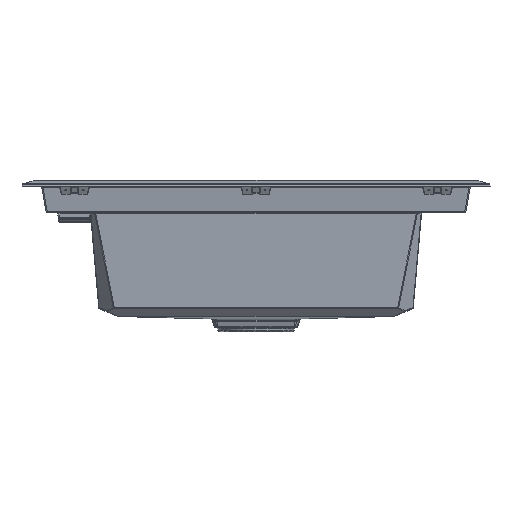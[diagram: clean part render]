
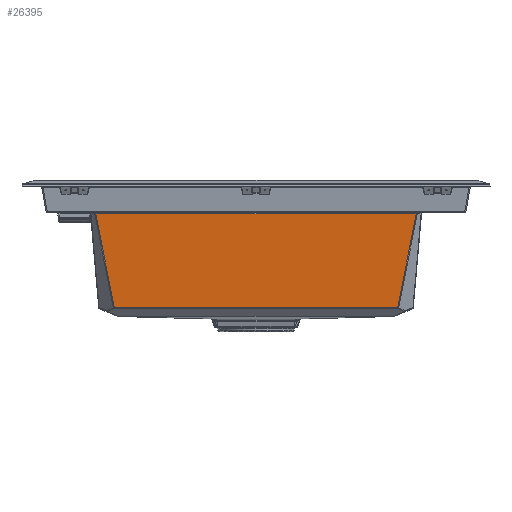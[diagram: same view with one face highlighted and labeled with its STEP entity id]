
A CAD part, top view. The second image highlights one B-rep face of the part: STEP entity #26395.
In plain terms, the highlighted planar face has unit normal (0, -0.087, 0.996).
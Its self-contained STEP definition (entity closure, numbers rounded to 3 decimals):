
#1320 = ORIENTED_EDGE ( 'NONE', *, *, #27175, .T. ) ;
#1837 = DIRECTION ( 'NONE',  ( -0.193, 0.977, 0.086 ) ) ;
#4281 = VERTEX_POINT ( 'NONE', #32304 ) ;
#4355 = VECTOR ( 'NONE', #5386, 1000. ) ;
#5386 = DIRECTION ( 'NONE',  ( -1., 0., 0. ) ) ;
#8283 = DIRECTION ( 'NONE',  ( 0., 0.996, 0.087 ) ) ;
#8424 = CARTESIAN_POINT ( 'NONE',  ( 500000., -36.697, -48.508 ) ) ;
#9517 = CARTESIAN_POINT ( 'NONE',  ( 151.668, -200.236, -62.815 ) ) ;
#10784 = LINE ( 'NONE', #13693, #26779 ) ;
#11290 = CARTESIAN_POINT ( 'NONE',  ( 500000., -45.826, -49.306 ) ) ;
#11443 = VECTOR ( 'NONE', #1837, 1000. ) ;
#11457 = CARTESIAN_POINT ( 'NONE',  ( 500000., -200.236, -62.815 ) ) ;
#11672 = CARTESIAN_POINT ( 'NONE',  ( 18823.399, -94543.887, -8316.815 ) ) ;
#13693 = CARTESIAN_POINT ( 'NONE',  ( 648.891, -45.826, -49.306 ) ) ;
#14011 = AXIS2_PLACEMENT_3D ( 'NONE', #8424, #40329, #8283 ) ;
#18323 = VERTEX_POINT ( 'NONE', #9517 ) ;
#20039 = ORIENTED_EDGE ( 'NONE', *, *, #24327, .F. ) ;
#20410 = ORIENTED_EDGE ( 'NONE', *, *, #35877, .F. ) ;
#21624 = DIRECTION ( 'NONE',  ( -1., 0., 0. ) ) ;
#21941 = EDGE_CURVE ( 'NONE', #18323, #4281, #37959, .T. ) ;
#23025 = EDGE_LOOP ( 'NONE', ( #20039, #1320, #31931, #20410 ) ) ;
#24327 = EDGE_CURVE ( 'NONE', #28544, #36987, #10784, .T. ) ;
#24383 = PLANE ( 'NONE',  #14011 ) ;
#25745 = CARTESIAN_POINT ( 'NONE',  ( 648.891, -45.826, -49.306 ) ) ;
#25864 = LINE ( 'NONE', #11290, #38384 ) ;
#26395 = ADVANCED_FACE ( 'NONE', ( #38198 ), #24383, .F. ) ;
#26779 = VECTOR ( 'NONE', #35548, 1000. ) ;
#27175 = EDGE_CURVE ( 'NONE', #28544, #4281, #25864, .T. ) ;
#28544 = VERTEX_POINT ( 'NONE', #25745 ) ;
#31931 = ORIENTED_EDGE ( 'NONE', *, *, #21941, .F. ) ;
#32304 = CARTESIAN_POINT ( 'NONE',  ( 121.109, -45.826, -49.306 ) ) ;
#35548 = DIRECTION ( 'NONE',  ( -0.193, -0.977, -0.086 ) ) ;
#35877 = EDGE_CURVE ( 'NONE', #36987, #18323, #38424, .T. ) ;
#36917 = CARTESIAN_POINT ( 'NONE',  ( 618.332, -200.236, -62.815 ) ) ;
#36987 = VERTEX_POINT ( 'NONE', #36917 ) ;
#37959 = LINE ( 'NONE', #11672, #11443 ) ;
#38198 = FACE_OUTER_BOUND ( 'NONE', #23025, .T. ) ;
#38384 = VECTOR ( 'NONE', #21624, 1000. ) ;
#38424 = LINE ( 'NONE', #11457, #4355 ) ;
#40329 = DIRECTION ( 'NONE',  ( 0., 0.087, -0.996 ) ) ;
